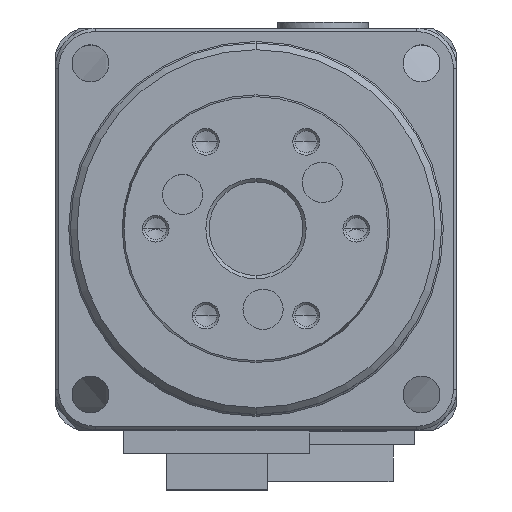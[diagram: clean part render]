
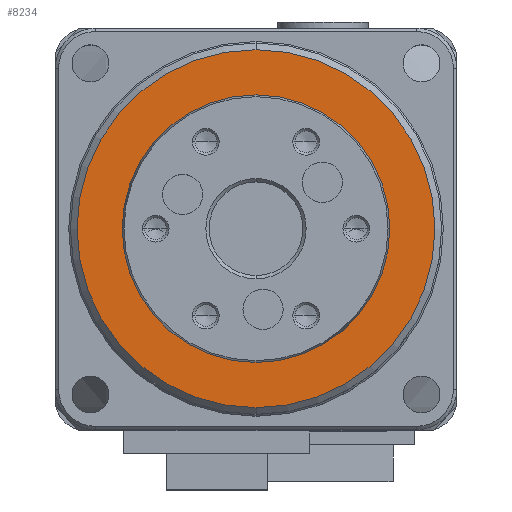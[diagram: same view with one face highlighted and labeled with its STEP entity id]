
A CAD part, top view. The second image highlights one B-rep face of the part: STEP entity #8234.
In plain terms, the highlighted planar face has unit normal (0, 0, 1).
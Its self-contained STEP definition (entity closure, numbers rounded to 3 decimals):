
#2799=CARTESIAN_POINT('',(0.,0.,20.));
#2800=DIRECTION('',(0.,0.,-1.));
#2801=DIRECTION('',(0.,1.,0.));
#2802=AXIS2_PLACEMENT_3D('',#2799,#2800,#2801);
#2804=CARTESIAN_POINT('',(0.,0.,20.));
#2805=DIRECTION('',(0.,0.,-1.));
#2806=DIRECTION('',(0.,-1.,0.));
#2807=AXIS2_PLACEMENT_3D('',#2804,#2805,#2806);
#2809=CARTESIAN_POINT('',(0.,0.,20.));
#2810=DIRECTION('',(0.,0.,1.));
#2811=DIRECTION('',(0.,-1.,0.));
#2812=AXIS2_PLACEMENT_3D('',#2809,#2810,#2811);
#2814=CARTESIAN_POINT('',(0.,0.,20.));
#2815=DIRECTION('',(0.,0.,1.));
#2816=DIRECTION('',(0.,1.,0.));
#2817=AXIS2_PLACEMENT_3D('',#2814,#2815,#2816);
#4413=CARTESIAN_POINT('',(0.,26.75,20.));
#4414=VERTEX_POINT('',#4413);
#4415=CARTESIAN_POINT('',(0.,-26.75,20.));
#4416=VERTEX_POINT('',#4415);
#4417=CARTESIAN_POINT('',(0.,-20.,20.));
#4418=CARTESIAN_POINT('',(0.,20.,20.));
#4419=VERTEX_POINT('',#4417);
#4420=VERTEX_POINT('',#4418);
#8219=CARTESIAN_POINT('',(0.,0.,20.));
#8220=DIRECTION('',(0.,0.,1.));
#8221=DIRECTION('',(0.,-1.,0.));
#8222=AXIS2_PLACEMENT_3D('',#8219,#8220,#8221);
#8223=PLANE('',#8222);
#8224=ORIENTED_EDGE('',*,*,#8214,.T.);
#8225=ORIENTED_EDGE('',*,*,#8198,.T.);
#8226=EDGE_LOOP('',(#8224,#8225));
#8227=FACE_OUTER_BOUND('',#8226,.F.);
#8229=ORIENTED_EDGE('',*,*,#8228,.T.);
#8231=ORIENTED_EDGE('',*,*,#8230,.T.);
#8232=EDGE_LOOP('',(#8229,#8231));
#8233=FACE_BOUND('',#8232,.F.);
#8234=ADVANCED_FACE('',(#8227,#8233),#8223,.T.);
#2803=CIRCLE('',#2802,26.75);
#2808=CIRCLE('',#2807,26.75);
#2813=CIRCLE('',#2812,20.);
#2818=CIRCLE('',#2817,20.);
#8198=EDGE_CURVE('',#4416,#4414,#2808,.T.);
#8214=EDGE_CURVE('',#4414,#4416,#2803,.T.);
#8228=EDGE_CURVE('',#4419,#4420,#2813,.T.);
#8230=EDGE_CURVE('',#4420,#4419,#2818,.T.);
